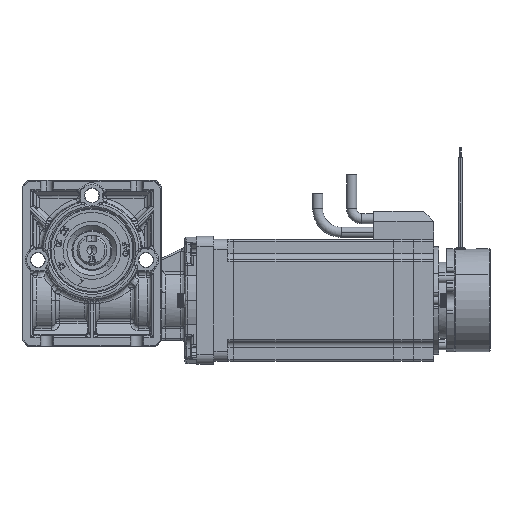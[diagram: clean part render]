
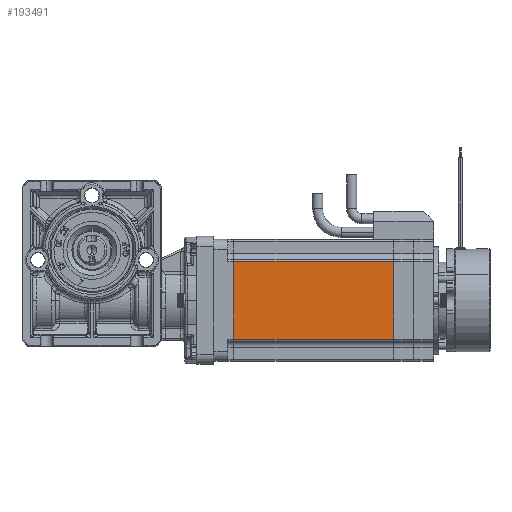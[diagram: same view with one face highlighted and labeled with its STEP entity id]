
A CAD part, top view. The second image highlights one B-rep face of the part: STEP entity #193491.
In plain terms, the highlighted planar face has unit normal (0, 0, 1).
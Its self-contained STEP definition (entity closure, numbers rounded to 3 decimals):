
#12271 = CARTESIAN_POINT ( 'NONE',  ( 67.405, -8.498, 139.933 ) ) ;
#24478 = CARTESIAN_POINT ( 'NONE',  ( -12.595, -14.498, 139.933 ) ) ;
#31804 = DIRECTION ( 'NONE',  ( 0., -1., 0. ) ) ;
#31882 = ORIENTED_EDGE ( 'NONE', *, *, #108258, .T. ) ;
#41490 = DIRECTION ( 'NONE',  ( -1., 0., 0. ) ) ;
#46301 = ORIENTED_EDGE ( 'NONE', *, *, #71018, .T. ) ;
#54898 = EDGE_LOOP ( 'NONE', ( #134497, #46301, #76787, #31882 ) ) ;
#65567 = DIRECTION ( 'NONE',  ( 1., 0., 0. ) ) ;
#69862 = CARTESIAN_POINT ( 'NONE',  ( 67.405, 30.502, 139.933 ) ) ;
#71015 = LINE ( 'NONE', #152700, #241309 ) ;
#71018 = EDGE_CURVE ( 'NONE', #253619, #161697, #129884, .T. ) ;
#76787 = ORIENTED_EDGE ( 'NONE', *, *, #78009, .F. ) ;
#78009 = EDGE_CURVE ( 'NONE', #148220, #161697, #191815, .T. ) ;
#78573 = DIRECTION ( 'NONE',  ( 0., 1., 0. ) ) ;
#85693 = CARTESIAN_POINT ( 'NONE',  ( -15.595, 30.502, 139.933 ) ) ;
#98041 = CARTESIAN_POINT ( 'NONE',  ( 67.405, -14.498, 139.933 ) ) ;
#98388 = EDGE_CURVE ( 'NONE', #253619, #263137, #204676, .T. ) ;
#103383 = FACE_OUTER_BOUND ( 'NONE', #54898, .T. ) ;
#107630 = VECTOR ( 'NONE', #31804, 1000. ) ;
#108258 = EDGE_CURVE ( 'NONE', #148220, #263137, #71015, .T. ) ;
#119137 = CARTESIAN_POINT ( 'NONE',  ( -12.595, 30.502, 139.933 ) ) ;
#121371 = PLANE ( 'NONE',  #243788 ) ;
#129884 = LINE ( 'NONE', #85693, #272599 ) ;
#134497 = ORIENTED_EDGE ( 'NONE', *, *, #98388, .F. ) ;
#135048 = CARTESIAN_POINT ( 'NONE',  ( -12.595, -8.498, 139.933 ) ) ;
#148220 = VERTEX_POINT ( 'NONE', #135048 ) ;
#152700 = CARTESIAN_POINT ( 'NONE',  ( 87.405, -8.498, 139.933 ) ) ;
#161697 = VERTEX_POINT ( 'NONE', #119137 ) ;
#167178 = CARTESIAN_POINT ( 'NONE',  ( 87.405, -14.498, 139.933 ) ) ;
#187729 = DIRECTION ( 'NONE',  ( 0., 1., 0. ) ) ;
#191815 = LINE ( 'NONE', #24478, #207101 ) ;
#193491 = ADVANCED_FACE ( 'NONE', ( #103383 ), #121371, .T. ) ;
#204676 = LINE ( 'NONE', #98041, #107630 ) ;
#207101 = VECTOR ( 'NONE', #187729, 1000. ) ;
#230824 = DIRECTION ( 'NONE',  ( 0., 0., 1. ) ) ;
#241309 = VECTOR ( 'NONE', #65567, 1000. ) ;
#243788 = AXIS2_PLACEMENT_3D ( 'NONE', #167178, #230824, #78573 ) ;
#253619 = VERTEX_POINT ( 'NONE', #69862 ) ;
#263137 = VERTEX_POINT ( 'NONE', #12271 ) ;
#272599 = VECTOR ( 'NONE', #41490, 1000. ) ;
